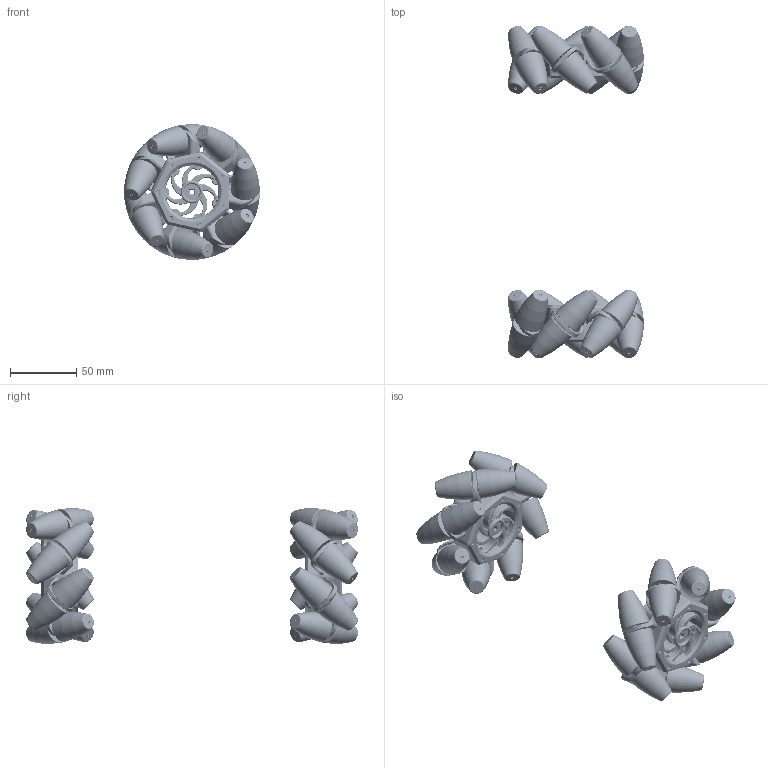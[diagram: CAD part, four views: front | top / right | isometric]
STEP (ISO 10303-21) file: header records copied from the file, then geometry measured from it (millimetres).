
FILE_DESCRIPTION (( 'STEP AP203' ), '1' );
FILE_NAME ('276-1447.STEP', '2011-11-15T15:28:35', ( '' ), ( '' ), 'SwSTEP 2.0', 'SolidWorks 2010', '' );
FILE_SCHEMA (( 'CONFIG_CONTROL_DESIGN' ));
Length unit declared in the file: inch
Products named in the file (11): 276-1447; WHEEL-HUB-OUT-R; BRACKET-R; WHEEL-HUB-IN-R; WHEEL-HUB-IN-L; WHEEL-HUB-OUT-L; BRACKET-L; WASHER; SMALL-WHEEL-HUB; WHEEL; PIN
Assembly tree (116 placements, depth 2):
  276-1447
    WHEEL  x28
    WASHER  x28
    BRACKET-L  x7
    SMALL-WHEEL-HUB  x28
    BRACKET-R  x7
    PIN  x14
    WHEEL-HUB-IN-R
    WHEEL-HUB-OUT-L
    WHEEL-HUB-OUT-R
    WHEEL-HUB-IN-L
Bounding box: 102.8 x 251.35 x 102.88 mm (x, y, z)
Volume: 337989.5 mm3; surface area: 269851.9 mm2
Topology: 116 solids, 116 shells, 6486 faces, 16775 edges, 10729 vertices
Faces by surface type: cylinder 2154, plane 1832, bspline 1644, cone 800, torus 56
Entity records: 129715 total; most frequent: CARTESIAN_POINT 60330, ORIENTED_EDGE 15938, DIRECTION 10341, EDGE_CURVE 7969, VERTEX_POINT 5161, AXIS2_PLACEMENT_3D 3708, B_SPLINE_CURVE_WITH_KNOTS 3687, EDGE_LOOP 3020
